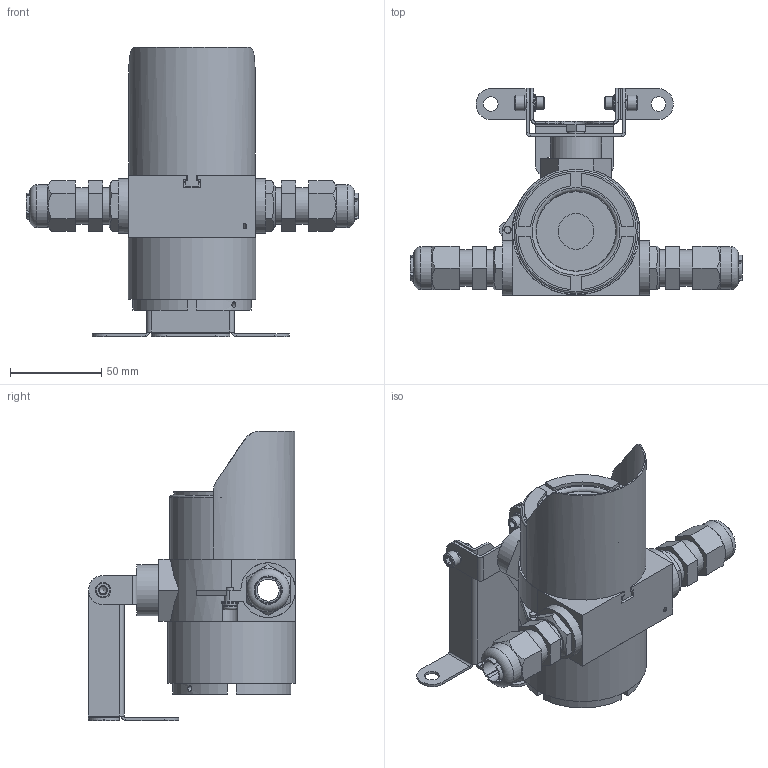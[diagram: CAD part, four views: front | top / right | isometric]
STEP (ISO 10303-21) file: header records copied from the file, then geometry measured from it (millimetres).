
FILE_DESCRIPTION (( 'STEP AP203' ), '1' );
FILE_NAME ('ÈÏÏ-00.000 Èçâåùàòåëü ïëàìåíè ÍÎÂ ÊÐÎÍØÒÅÉÍ.STEP', '2015-11-30T11:08:47', ( 'Ïîëüçîâàòåëü' ), ( 'Windows' ), 'SwSTEP 2.0', 'SolidWorks 2015', '' );
FILE_SCHEMA (( 'CONFIG_CONTROL_DESIGN' ));
Length unit declared in the file: millimetre
Products named in the file (1): ÈÏÏ-00.000 Èçâåùàòåëü ïëàìåíè ÍÎÂ ÊÐÎÍØÒÅÉÍ
Bounding box: 182 x 113.5 x 158.5 mm (x, y, z)
Surface area: 101356.6 mm2 (no closed solid volume)
Topology: 0 solids, 31 shells, 370 faces, 974 edges, 640 vertices
Faces by surface type: plane 225, cylinder 103, cone 27, torus 9, bspline 6
Full cylindrical faces by diameter (mm): 2 x1, 3 x2, 4 x5, 7 x2, 8 x5, 8.5 x2, 9 x4, 12 x2, 19.5 x1, 20 x4, 23.5 x2, 28 x1, 30 x1, 43.5 x1, 44 x1, 45 x1, 68 x1, 70 x1
Entity records: 12323 total; most frequent: CARTESIAN_POINT 3506, DIRECTION 1837, ORIENTED_EDGE 1605, EDGE_CURVE 892, AXIS2_PLACEMENT_3D 686, VERTEX_POINT 619, EDGE_LOOP 493, LINE 465
